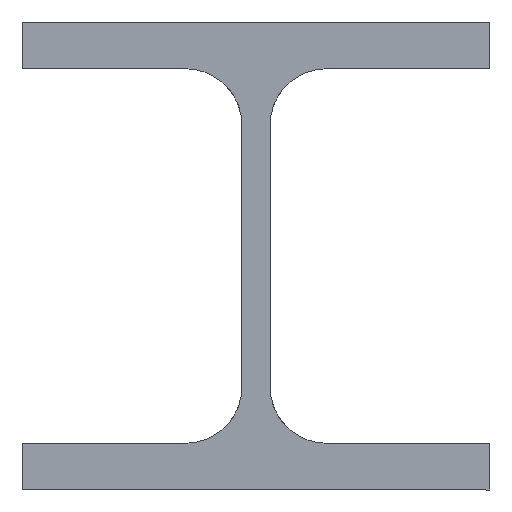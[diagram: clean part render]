
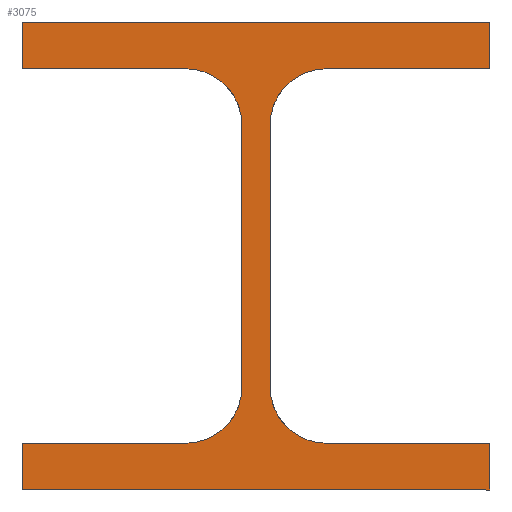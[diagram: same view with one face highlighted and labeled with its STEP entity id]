
A CAD part, left-side view. The second image highlights one B-rep face of the part: STEP entity #3075.
In plain terms, the highlighted planar face has unit normal (-1, 0, 0).
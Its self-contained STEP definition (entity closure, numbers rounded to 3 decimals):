
#41 = ORIENTED_EDGE ( 'NONE', *, *, #1069, .T. ) ;
#60 = CARTESIAN_POINT ( 'NONE',  ( 6945., 1897., 4102. ) ) ;
#66 = ORIENTED_EDGE ( 'NONE', *, *, #3121, .T. ) ;
#74 = VECTOR ( 'NONE', #1562, 1000. ) ;
#123 = LINE ( 'NONE', #1540, #2469 ) ;
#152 = CARTESIAN_POINT ( 'NONE',  ( 6945., 1915., 4170. ) ) ;
#191 = CARTESIAN_POINT ( 'NONE',  ( 6945., 1885., 4090. ) ) ;
#194 = EDGE_CURVE ( 'NONE', #2136, #2593, #2544, .T. ) ;
#197 = VECTOR ( 'NONE', #2497, 1000. ) ;
#199 = CIRCLE ( 'NONE', #607, 12. ) ;
#204 = LINE ( 'NONE', #744, #74 ) ;
#263 = CARTESIAN_POINT ( 'NONE',  ( 6945., 1903., 4158. ) ) ;
#273 = DIRECTION ( 'NONE',  ( 0., -1., 0. ) ) ;
#284 = VERTEX_POINT ( 'NONE', #152 ) ;
#286 = VERTEX_POINT ( 'NONE', #735 ) ;
#309 = LINE ( 'NONE', #1100, #3183 ) ;
#322 = CARTESIAN_POINT ( 'NONE',  ( 6945., 1915., 4102. ) ) ;
#327 = VERTEX_POINT ( 'NONE', #2617 ) ;
#375 = VECTOR ( 'NONE', #2629, 1000. ) ;
#434 = VECTOR ( 'NONE', #1836, 1000. ) ;
#451 = ORIENTED_EDGE ( 'NONE', *, *, #194, .T. ) ;
#545 = CARTESIAN_POINT ( 'NONE',  ( 6945., 1850., 4170. ) ) ;
#563 = ORIENTED_EDGE ( 'NONE', *, *, #3209, .T. ) ;
#604 = DIRECTION ( 'NONE',  ( 0., 0., 1. ) ) ;
#605 = AXIS2_PLACEMENT_3D ( 'NONE', #842, #2543, #2300 ) ;
#607 = AXIS2_PLACEMENT_3D ( 'NONE', #322, #2206, #604 ) ;
#619 = CARTESIAN_POINT ( 'NONE',  ( 6945., 1950., 4180. ) ) ;
#643 = DIRECTION ( 'NONE',  ( 0., 0., 1. ) ) ;
#726 = EDGE_LOOP ( 'NONE', ( #1464, #2435, #1754, #2066, #1335, #1039, #3291, #41, #66, #2166, #1015, #451, #2797, #563, #2296, #805 ) ) ;
#735 = CARTESIAN_POINT ( 'NONE',  ( 6945., 1897., 4158. ) ) ;
#744 = CARTESIAN_POINT ( 'NONE',  ( 6945., 1850., 4180. ) ) ;
#746 = LINE ( 'NONE', #1565, #434 ) ;
#805 = ORIENTED_EDGE ( 'NONE', *, *, #2227, .T. ) ;
#842 = CARTESIAN_POINT ( 'NONE',  ( 6945., 1885., 4158. ) ) ;
#884 = EDGE_CURVE ( 'NONE', #1841, #3165, #746, .T. ) ;
#896 = LINE ( 'NONE', #3152, #3012 ) ;
#900 = VECTOR ( 'NONE', #1338, 1000. ) ;
#904 = EDGE_CURVE ( 'NONE', #2224, #2502, #123, .T. ) ;
#957 = CIRCLE ( 'NONE', #2474, 12. ) ;
#1015 = ORIENTED_EDGE ( 'NONE', *, *, #2736, .T. ) ;
#1034 = CARTESIAN_POINT ( 'NONE',  ( 6945., 1885., 4170. ) ) ;
#1039 = ORIENTED_EDGE ( 'NONE', *, *, #3094, .T. ) ;
#1043 = VERTEX_POINT ( 'NONE', #263 ) ;
#1069 = EDGE_CURVE ( 'NONE', #286, #1587, #2190, .T. ) ;
#1082 = LINE ( 'NONE', #2197, #900 ) ;
#1087 = CARTESIAN_POINT ( 'NONE',  ( 6945., 1915., 4090. ) ) ;
#1100 = CARTESIAN_POINT ( 'NONE',  ( 6945., 1885., 4170. ) ) ;
#1117 = DIRECTION ( 'NONE',  ( 0., -1., 0. ) ) ;
#1140 = CARTESIAN_POINT ( 'NONE',  ( 6945., 1950., 4080. ) ) ;
#1175 = VERTEX_POINT ( 'NONE', #3480 ) ;
#1220 = DIRECTION ( 'NONE',  ( 1., 0., 0. ) ) ;
#1228 = EDGE_CURVE ( 'NONE', #327, #2224, #1728, .T. ) ;
#1335 = ORIENTED_EDGE ( 'NONE', *, *, #904, .T. ) ;
#1338 = DIRECTION ( 'NONE',  ( 0., -1., 0. ) ) ;
#1464 = ORIENTED_EDGE ( 'NONE', *, *, #1706, .T. ) ;
#1481 = CARTESIAN_POINT ( 'NONE',  ( 6945., 1950., 4090. ) ) ;
#1513 = CARTESIAN_POINT ( 'NONE',  ( 6945., 1915., 4090. ) ) ;
#1540 = CARTESIAN_POINT ( 'NONE',  ( 6945., 1850., 4090. ) ) ;
#1544 = VECTOR ( 'NONE', #1117, 1000. ) ;
#1562 = DIRECTION ( 'NONE',  ( 0., 1., 0. ) ) ;
#1565 = CARTESIAN_POINT ( 'NONE',  ( 6945., 1850., 4170. ) ) ;
#1572 = DIRECTION ( 'NONE',  ( 1., 0., 0. ) ) ;
#1586 = DIRECTION ( 'NONE',  ( 0., 1., 0. ) ) ;
#1587 = VERTEX_POINT ( 'NONE', #1034 ) ;
#1599 = LINE ( 'NONE', #1087, #2069 ) ;
#1636 = VERTEX_POINT ( 'NONE', #3032 ) ;
#1645 = EDGE_CURVE ( 'NONE', #2593, #284, #1082, .T. ) ;
#1706 = EDGE_CURVE ( 'NONE', #2891, #2671, #1599, .T. ) ;
#1728 = LINE ( 'NONE', #2832, #2870 ) ;
#1754 = ORIENTED_EDGE ( 'NONE', *, *, #2447, .T. ) ;
#1836 = DIRECTION ( 'NONE',  ( 0., 0., 1. ) ) ;
#1841 = VERTEX_POINT ( 'NONE', #545 ) ;
#1900 = VECTOR ( 'NONE', #2837, 1000. ) ;
#1922 = PLANE ( 'NONE',  #3062 ) ;
#1964 = CARTESIAN_POINT ( 'NONE',  ( 6945., 1850., 4090. ) ) ;
#2022 = CARTESIAN_POINT ( 'NONE',  ( 6945., 1903., 4158. ) ) ;
#2066 = ORIENTED_EDGE ( 'NONE', *, *, #1228, .T. ) ;
#2069 = VECTOR ( 'NONE', #2998, 1000. ) ;
#2096 = EDGE_CURVE ( 'NONE', #1043, #1175, #3404, .T. ) ;
#2136 = VERTEX_POINT ( 'NONE', #3008 ) ;
#2166 = ORIENTED_EDGE ( 'NONE', *, *, #884, .T. ) ;
#2190 = CIRCLE ( 'NONE', #605, 12. ) ;
#2196 = CIRCLE ( 'NONE', #2587, 12. ) ;
#2197 = CARTESIAN_POINT ( 'NONE',  ( 6945., 1950., 4170. ) ) ;
#2206 = DIRECTION ( 'NONE',  ( 1., 0., 0. ) ) ;
#2224 = VERTEX_POINT ( 'NONE', #1964 ) ;
#2227 = EDGE_CURVE ( 'NONE', #1175, #2891, #199, .T. ) ;
#2267 = LINE ( 'NONE', #3395, #1900 ) ;
#2296 = ORIENTED_EDGE ( 'NONE', *, *, #2096, .T. ) ;
#2300 = DIRECTION ( 'NONE',  ( 0., 0., 1. ) ) ;
#2435 = ORIENTED_EDGE ( 'NONE', *, *, #2868, .T. ) ;
#2441 = FACE_OUTER_BOUND ( 'NONE', #726, .T. ) ;
#2447 = EDGE_CURVE ( 'NONE', #1636, #327, #2491, .T. ) ;
#2469 = VECTOR ( 'NONE', #1586, 1000. ) ;
#2474 = AXIS2_PLACEMENT_3D ( 'NONE', #2654, #1572, #3279 ) ;
#2491 = LINE ( 'NONE', #1140, #1544 ) ;
#2497 = DIRECTION ( 'NONE',  ( 0., 0., -1. ) ) ;
#2502 = VERTEX_POINT ( 'NONE', #191 ) ;
#2543 = DIRECTION ( 'NONE',  ( 1., 0., 0. ) ) ;
#2544 = LINE ( 'NONE', #619, #197 ) ;
#2557 = DIRECTION ( 'NONE',  ( 0., 0., 1. ) ) ;
#2587 = AXIS2_PLACEMENT_3D ( 'NONE', #2882, #1220, #2808 ) ;
#2593 = VERTEX_POINT ( 'NONE', #2712 ) ;
#2617 = CARTESIAN_POINT ( 'NONE',  ( 6945., 1850., 4080. ) ) ;
#2629 = DIRECTION ( 'NONE',  ( 0., 0., -1. ) ) ;
#2654 = CARTESIAN_POINT ( 'NONE',  ( 6945., 1885., 4102. ) ) ;
#2671 = VERTEX_POINT ( 'NONE', #1481 ) ;
#2712 = CARTESIAN_POINT ( 'NONE',  ( 6945., 1950., 4170. ) ) ;
#2735 = DIRECTION ( 'NONE',  ( -1., 0., 0. ) ) ;
#2736 = EDGE_CURVE ( 'NONE', #3165, #2136, #204, .T. ) ;
#2797 = ORIENTED_EDGE ( 'NONE', *, *, #1645, .T. ) ;
#2802 = DIRECTION ( 'NONE',  ( 0., 0., 1. ) ) ;
#2808 = DIRECTION ( 'NONE',  ( 0., 0., 1. ) ) ;
#2832 = CARTESIAN_POINT ( 'NONE',  ( 6945., 1850., 4080. ) ) ;
#2837 = DIRECTION ( 'NONE',  ( 0., 0., -1. ) ) ;
#2868 = EDGE_CURVE ( 'NONE', #2671, #1636, #2267, .T. ) ;
#2870 = VECTOR ( 'NONE', #2557, 1000. ) ;
#2882 = CARTESIAN_POINT ( 'NONE',  ( 6945., 1915., 4158. ) ) ;
#2891 = VERTEX_POINT ( 'NONE', #1513 ) ;
#2998 = DIRECTION ( 'NONE',  ( 0., 1., 0. ) ) ;
#3008 = CARTESIAN_POINT ( 'NONE',  ( 6945., 1950., 4180. ) ) ;
#3012 = VECTOR ( 'NONE', #643, 1000. ) ;
#3032 = CARTESIAN_POINT ( 'NONE',  ( 6945., 1950., 4080. ) ) ;
#3062 = AXIS2_PLACEMENT_3D ( 'NONE', #3286, #2735, #2802 ) ;
#3075 = ADVANCED_FACE ( 'NONE', ( #2441 ), #1922, .T. ) ;
#3094 = EDGE_CURVE ( 'NONE', #2502, #3206, #957, .T. ) ;
#3121 = EDGE_CURVE ( 'NONE', #1587, #1841, #309, .T. ) ;
#3152 = CARTESIAN_POINT ( 'NONE',  ( 6945., 1897., 4102. ) ) ;
#3165 = VERTEX_POINT ( 'NONE', #3398 ) ;
#3172 = EDGE_CURVE ( 'NONE', #3206, #286, #896, .T. ) ;
#3183 = VECTOR ( 'NONE', #273, 1000. ) ;
#3206 = VERTEX_POINT ( 'NONE', #60 ) ;
#3209 = EDGE_CURVE ( 'NONE', #284, #1043, #2196, .T. ) ;
#3279 = DIRECTION ( 'NONE',  ( 0., 0., 1. ) ) ;
#3286 = CARTESIAN_POINT ( 'NONE',  ( 6945., 2850., 4175. ) ) ;
#3291 = ORIENTED_EDGE ( 'NONE', *, *, #3172, .T. ) ;
#3395 = CARTESIAN_POINT ( 'NONE',  ( 6945., 1950., 4090. ) ) ;
#3398 = CARTESIAN_POINT ( 'NONE',  ( 6945., 1850., 4180. ) ) ;
#3404 = LINE ( 'NONE', #2022, #375 ) ;
#3480 = CARTESIAN_POINT ( 'NONE',  ( 6945., 1903., 4102. ) ) ;
